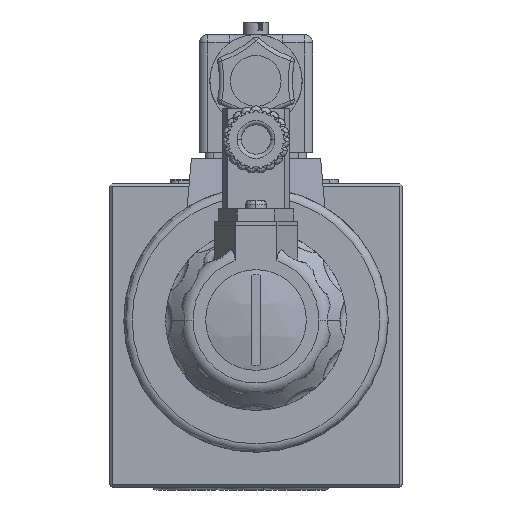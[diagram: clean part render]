
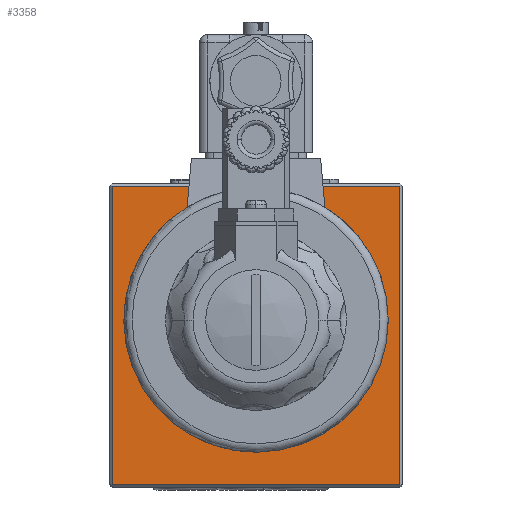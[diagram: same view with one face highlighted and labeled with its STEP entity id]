
A CAD part, left-side view. The second image highlights one B-rep face of the part: STEP entity #3358.
In plain terms, the highlighted planar face has unit normal (-1, 0, 0).
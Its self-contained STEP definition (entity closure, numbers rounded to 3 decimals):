
#1663=PLANE('',#20727);
#3358=ADVANCED_FACE('',(#7930,#7931,#7932,#7933,#7934,#7935),#1663,.T.);
#4856=LINE('',#43802,#6418);
#4857=LINE('',#43805,#6419);
#4858=LINE('',#43807,#6420);
#4859=LINE('',#43809,#6421);
#6418=VECTOR('',#23159,1.);
#6419=VECTOR('',#23160,1.);
#6420=VECTOR('',#23161,1.);
#6421=VECTOR('',#23162,1.);
#7930=FACE_BOUND('',#8489,.T.);
#7931=FACE_BOUND('',#8490,.T.);
#7932=FACE_BOUND('',#8491,.T.);
#7933=FACE_BOUND('',#8492,.T.);
#7934=FACE_BOUND('',#8493,.T.);
#7935=FACE_BOUND('',#8494,.T.);
#8489=EDGE_LOOP('',(#10460));
#8490=EDGE_LOOP('',(#10461,#10462,#10463,#10464));
#8491=EDGE_LOOP('',(#10465));
#8492=EDGE_LOOP('',(#10466));
#8493=EDGE_LOOP('',(#10467));
#8494=EDGE_LOOP('',(#10468));
#10460=ORIENTED_EDGE('',*,*,#17343,.T.);
#10461=ORIENTED_EDGE('',*,*,#17344,.T.);
#10462=ORIENTED_EDGE('',*,*,#17345,.T.);
#10463=ORIENTED_EDGE('',*,*,#17346,.T.);
#10464=ORIENTED_EDGE('',*,*,#17347,.T.);
#10465=ORIENTED_EDGE('',*,*,#17348,.T.);
#10466=ORIENTED_EDGE('',*,*,#17349,.T.);
#10467=ORIENTED_EDGE('',*,*,#17350,.T.);
#10468=ORIENTED_EDGE('',*,*,#17351,.T.);
#15383=VERTEX_POINT('',#43801);
#15384=VERTEX_POINT('',#43803);
#15385=VERTEX_POINT('',#43804);
#15386=VERTEX_POINT('',#43806);
#15387=VERTEX_POINT('',#43808);
#15388=VERTEX_POINT('',#43811);
#15389=VERTEX_POINT('',#43813);
#15390=VERTEX_POINT('',#43815);
#15391=VERTEX_POINT('',#43817);
#17343=EDGE_CURVE('',#15383,#15383,#19758,.T.);
#17344=EDGE_CURVE('',#15384,#15385,#4856,.T.);
#17345=EDGE_CURVE('',#15385,#15386,#4857,.T.);
#17346=EDGE_CURVE('',#15386,#15387,#4858,.T.);
#17347=EDGE_CURVE('',#15387,#15384,#4859,.T.);
#17348=EDGE_CURVE('',#15388,#15388,#19759,.T.);
#17349=EDGE_CURVE('',#15389,#15389,#19760,.T.);
#17350=EDGE_CURVE('',#15390,#15390,#19761,.T.);
#17351=EDGE_CURVE('',#15391,#15391,#19762,.T.);
#19758=CIRCLE('',#20722,3.25);
#19759=CIRCLE('',#20723,1.8);
#19760=CIRCLE('',#20724,1.8);
#19761=CIRCLE('',#20725,1.8);
#19762=CIRCLE('',#20726,16.);
#20722=AXIS2_PLACEMENT_3D('',#43800,#23157,#23158);
#20723=AXIS2_PLACEMENT_3D('',#43810,#23163,#23164);
#20724=AXIS2_PLACEMENT_3D('',#43812,#23165,#23166);
#20725=AXIS2_PLACEMENT_3D('',#43814,#23167,#23168);
#20726=AXIS2_PLACEMENT_3D('',#43816,#23169,#23170);
#20727=AXIS2_PLACEMENT_3D('',#43818,#23171,#23172);
#23157=DIRECTION('',(1.,0.,0.));
#23158=DIRECTION('',(0.,0.,-1.));
#23159=DIRECTION('',(0.,1.,0.));
#23160=DIRECTION('',(0.,0.,-1.));
#23161=DIRECTION('',(0.,-1.,0.));
#23162=DIRECTION('',(0.,0.,1.));
#23163=DIRECTION('',(1.,0.,0.));
#23164=DIRECTION('',(0.,0.,-1.));
#23165=DIRECTION('',(1.,0.,0.));
#23166=DIRECTION('',(0.,0.,-1.));
#23167=DIRECTION('',(1.,0.,0.));
#23168=DIRECTION('',(0.,0.,-1.));
#23169=DIRECTION('',(1.,0.,0.));
#23170=DIRECTION('',(0.,0.,1.));
#23171=DIRECTION('',(-1.,0.,0.));
#23172=DIRECTION('',(0.,0.,-1.));
#43800=CARTESIAN_POINT('',(94.,-22.996,-17.));
#43801=CARTESIAN_POINT('',(94.,-22.996,-20.25));
#43802=CARTESIAN_POINT('',(94.,0.,-0.7));
#43803=CARTESIAN_POINT('',(94.,-69.3,-0.7));
#43804=CARTESIAN_POINT('',(94.,-0.7,-0.7));
#43805=CARTESIAN_POINT('',(94.,-0.7,-72.5));
#43806=CARTESIAN_POINT('',(94.,-0.7,-71.8));
#43807=CARTESIAN_POINT('',(94.,-70.,-71.8));
#43808=CARTESIAN_POINT('',(94.,-69.3,-71.8));
#43809=CARTESIAN_POINT('',(94.,-69.3,-72.5));
#43810=CARTESIAN_POINT('',(94.,-16.,-32.5));
#43811=CARTESIAN_POINT('',(94.,-16.,-34.3));
#43812=CARTESIAN_POINT('',(94.,-54.,-32.5));
#43813=CARTESIAN_POINT('',(94.,-54.,-34.3));
#43814=CARTESIAN_POINT('',(94.,-35.,-51.5));
#43815=CARTESIAN_POINT('',(94.,-35.,-53.3));
#43816=CARTESIAN_POINT('',(94.,-35.,-32.5));
#43817=CARTESIAN_POINT('',(94.,-35.,-16.5));
#43818=CARTESIAN_POINT('',(94.,0.,-72.5));
